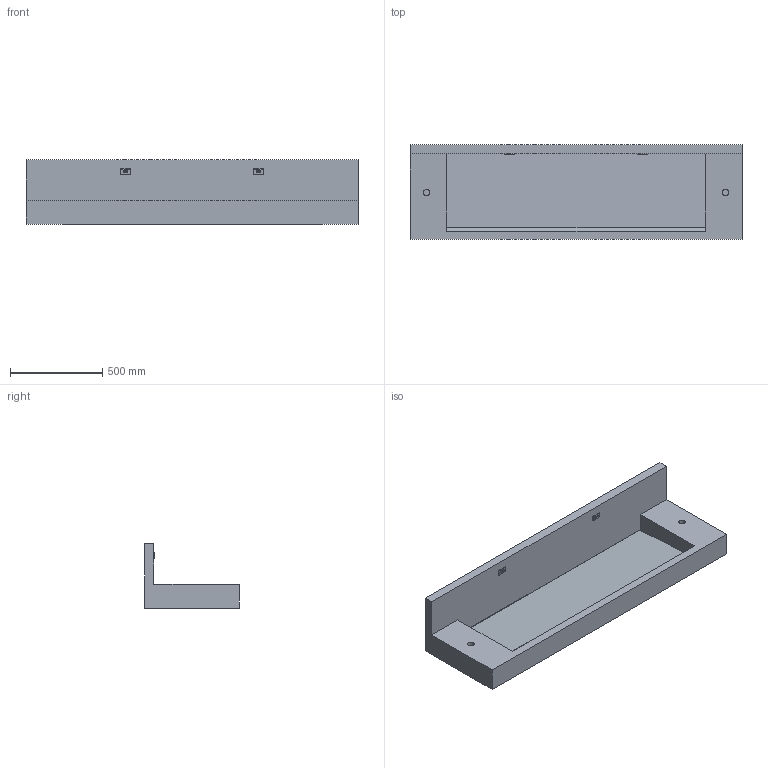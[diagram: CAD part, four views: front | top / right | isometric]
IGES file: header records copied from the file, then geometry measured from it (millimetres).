
Start section: Data from Parasolid IGES Translator 19.0.9, Copyright(c) 2006 Siemens PL M Software. All Rights Reserved.
Global section: file name: noorth-top-H 13 D 51,3 W 180_4791.igs; native system: By Siemens PLM Incorporated; preprocessor: XPlus GENERIC/IGES 19.0.9; author: Noname; organization: Noname; date: 20200601.163517; units: metre
Bounding box: 1800 x 513 x 350 mm (x, y, z)
Volume: 75800373.4 mm3; surface area: 3816058.9 mm2
Topology: 4 solids, 4 shells, 1517 faces, 3654 edges, 2434 vertices
Faces by surface type: plane 1483, cylinder 34
Full cylindrical faces by diameter (mm): 34.9 x2
